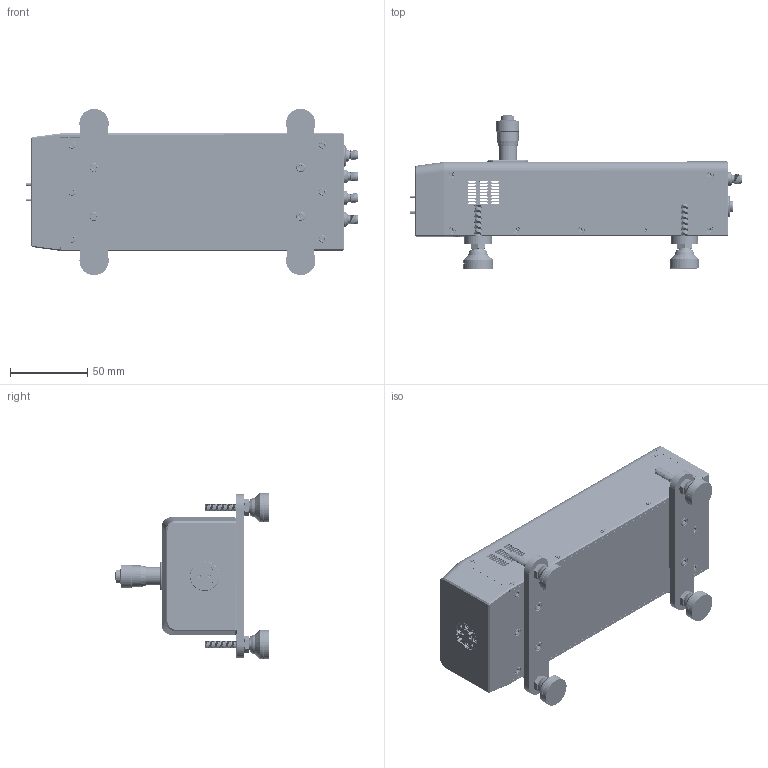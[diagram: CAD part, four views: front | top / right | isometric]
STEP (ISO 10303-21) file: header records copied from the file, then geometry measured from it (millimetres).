
FILE_DESCRIPTION (( 'STEP AP214' ), '1' );
FILE_NAME ('TO-S03-A-M-4, DF.STEP', '2025-09-03T18:14:09', ( '' ), ( '' ), 'SwSTEP 2.0', 'SolidWorks 2021', '' );
FILE_SCHEMA (( 'AUTOMOTIVE_DESIGN' ));
Length unit declared in the file: inch
Products named in the file (1): TO-S03-A-M-4, DF
Bounding box: 215.5 x 99.7 x 108.03 mm (x, y, z)
Volume: 265843.6 mm3; surface area: 176877.6 mm2
Topology: 111 solids, 117 shells, 6283 faces, 16483 edges, 10494 vertices
Faces by surface type: cylinder 3042, plane 1634, cone 1063, bspline 487, sphere 41, torus 16
Entity records: 429070 total; most frequent: CARTESIAN_POINT 207860, ORIENTED_EDGE 32568, DIRECTION 24953, EDGE_CURVE 16284, VERTEX_POINT 10464, AXIS2_PLACEMENT_3D 9319, EDGE_LOOP 6856, UNCERTAINTY_MEASURE_WITH_UNIT 6365
